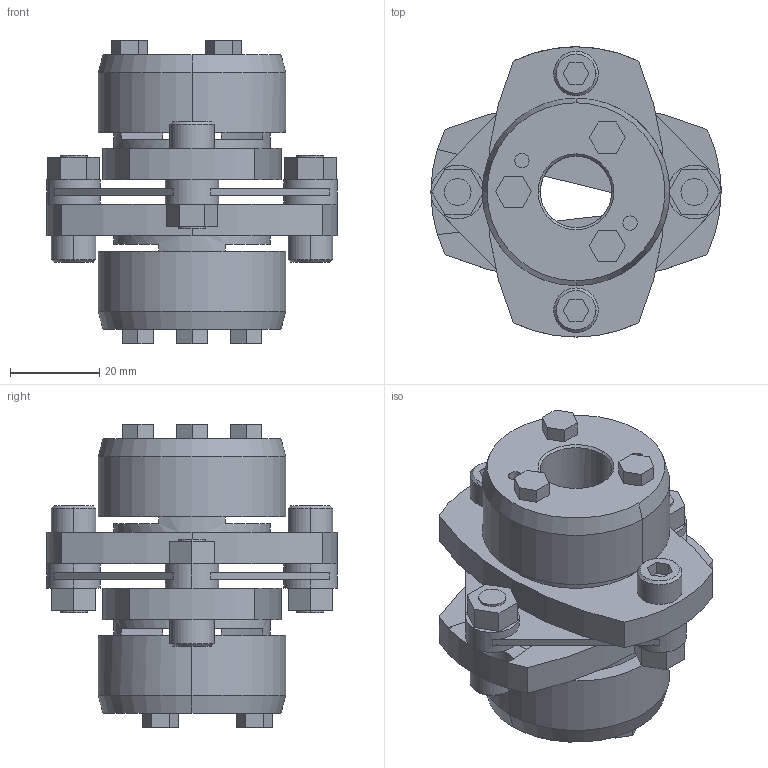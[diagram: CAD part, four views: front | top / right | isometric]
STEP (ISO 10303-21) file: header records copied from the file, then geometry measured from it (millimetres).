
FILE_DESCRIPTION((''),'2;1');
FILE_NAME('LCS-65T7-16×16.stp','2011-08-23T13:06:18',(''),(''),'AutoCAD STEP 2000i','AutoCAD 2000i',', , ');
FILE_SCHEMA(('CONFIG_CONTROL_DESIGN'));
Length unit declared in the file: millimetre
Products named in the file (5): LCS-65T7-15×15; 忣兜1; LC65T7-T015-1; LC65T7-T015; LCS65-ITA
Assembly tree (4 placements, depth 2):
  LCS-65T7-15×15
    忣兜1
    LC65T7-T015-1
    LC65T7-T015
    LCS65-ITA
Bounding box: 65 x 65 x 67.9 mm (x, y, z)
Volume: 81816.4 mm3; surface area: 28268.4 mm2
Topology: 1 solids, 1 shells, 220 faces, 564 edges, 368 vertices
Faces by surface type: plane 132, cylinder 68, cone 20
Entity records: 6879 total; most frequent: DIRECTION 1210, CARTESIAN_POINT 1157, ORIENTED_EDGE 1128, EDGE_CURVE 564, AXIS2_PLACEMENT_3D 421, VERTEX_POINT 368, VECTOR 368, LINE 368
